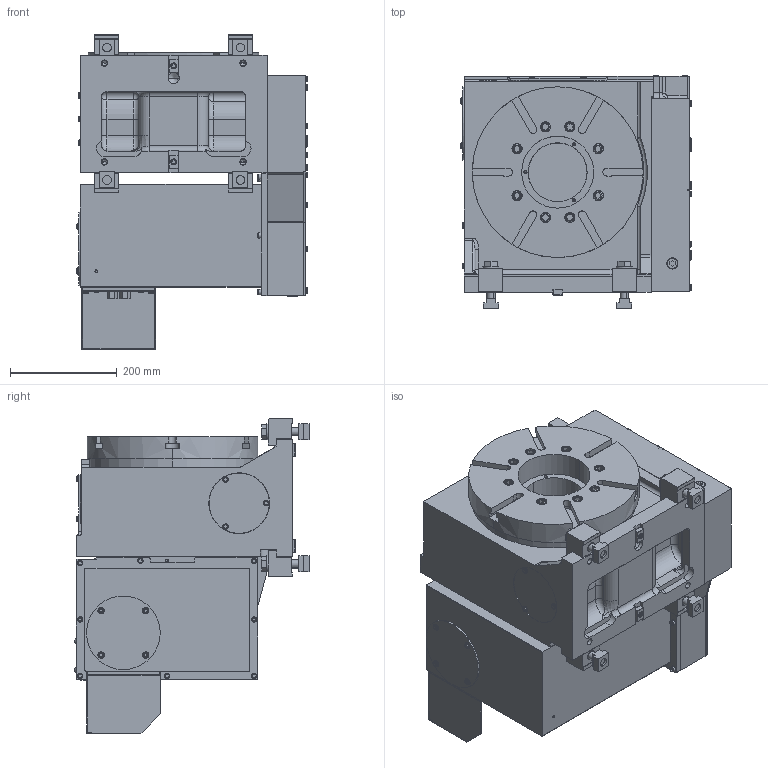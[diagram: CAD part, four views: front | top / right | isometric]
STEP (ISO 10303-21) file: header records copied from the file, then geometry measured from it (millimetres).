
FILE_DESCRIPTION (( 'STEP AP214' ), '1' );
FILE_NAME ('【掲載用】TBX320BF.STEP', '2020-01-06T00:30:33', ( '' ), ( '' ), 'SwSTEP 2.0', 'SolidWorks 2017', '' );
FILE_SCHEMA (( 'AUTOMOTIVE_DESIGN' ));
Length unit declared in the file: millimetre
Products named in the file (19): 僇僶乕丂俹(61E4458433)MR250RAM01; モータケース(61E2716300)TBX320HV00; ガイドブロック(61M4197783); TBX320B01僋儈僞僥(61E112173); オイルゲージ 207; 僣僶僣僉僾儔僌GFO M20x1.5; テーブル(61E3674881)TRX320H00; ギヤーボックス(61E1102765)TBX320H00; 儂儞僞僀ASSY(61E1121720)TBX320B01; 【掲載用】TBX320BF; CLAMPING PARTS(61E4303000)TR320D; Tスロットナット１８１６; B パーカ　M16×75; ワッシャ　１６; クランプ（61E4043064）; TBX320BF03儂儞僞僀; SMC KQ2E06-02; コネクタカバー（61E3639910）; コネクタプレート(61E459903)
Assembly tree (23 placements, depth 4):
  【掲載用】TBX320BF
    TBX320BF03儂儞僞僀
      TBX320B01僋儈僞僥(61E112173)
        儂儞僞僀ASSY(61E1121720)TBX320B01
        ギヤーボックス(61E1102765)TBX320H00
        テーブル(61E3674881)TRX320H00
        僣僶僣僉僾儔僌GFO M20x1.5
        オイルゲージ 207
      ガイドブロック(61M4197783)  x2
      モータケース(61E2716300)TBX320HV00
      僇僶乕丂俹(61E4458433)MR250RAM01
      コネクタプレート(61E459903)
      コネクタカバー（61E3639910）
      SMC KQ2E06-02  x2
    CLAMPING PARTS(61E4303000)TR320D  x4
      クランプ（61E4043064）
      ワッシャ　１６
      B パーカ　M16×75
      Tスロットナット１８１６
Bounding box: 434.1 x 438.75 x 589 mm (x, y, z)
Volume: 56205096.4 mm3; surface area: 2201311.6 mm2
Topology: 30 solids, 30 shells, 1623 faces, 3801 edges, 2375 vertices
Faces by surface type: plane 783, cylinder 563, cone 138, torus 102, sphere 26, bspline 11
Entity records: 50585 total; most frequent: CARTESIAN_POINT 7804, DIRECTION 7322, ORIENTED_EDGE 6370, EDGE_CURVE 3185, AXIS2_PLACEMENT_3D 2762, VERTEX_POINT 2031, VECTOR 1798, LINE 1798
